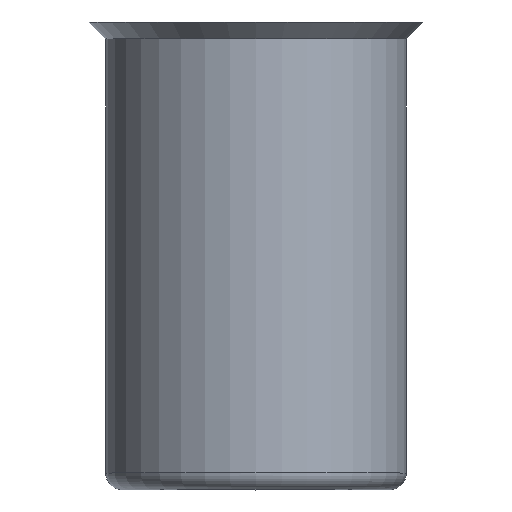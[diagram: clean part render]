
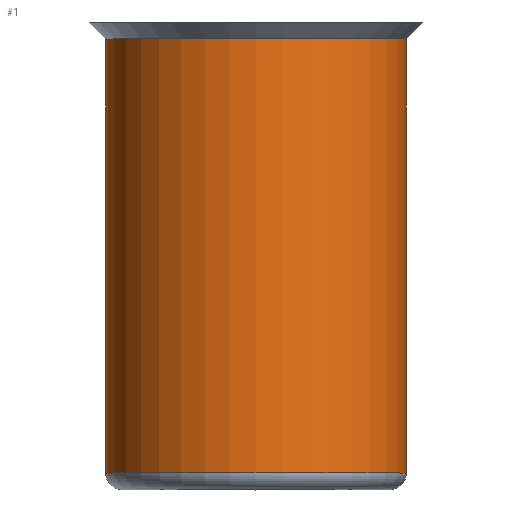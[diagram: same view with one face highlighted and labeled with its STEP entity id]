
A CAD part, top view. The second image highlights one B-rep face of the part: STEP entity #1.
In plain terms, the highlighted cylindrical face has radius 4.5 mm (diameter 9 mm), a full revolution.
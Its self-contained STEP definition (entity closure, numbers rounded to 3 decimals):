
#1 = ADVANCED_FACE ( 'NONE', ( #122, #66 ), #21, .T. ) ;
#2 = DIRECTION ( 'NONE',  ( 0., 0., -1. ) ) ;
#10 = EDGE_CURVE ( 'NONE', #192, #192, #97, .T. ) ;
#16 = ORIENTED_EDGE ( 'NONE', *, *, #10, .T. ) ;
#17 = AXIS2_PLACEMENT_3D ( 'NONE', #180, #185, #2 ) ;
#21 = CYLINDRICAL_SURFACE ( 'NONE', #118, 4.5 ) ;
#34 = CARTESIAN_POINT ( 'NONE',  ( 0., -13.5, 0. ) ) ;
#36 = EDGE_CURVE ( 'NONE', #160, #160, #139, .T. ) ;
#40 = DIRECTION ( 'NONE',  ( 0., 0., 1. ) ) ;
#66 = FACE_OUTER_BOUND ( 'NONE', #165, .T. ) ;
#77 = DIRECTION ( 'NONE',  ( 0., 0., -1. ) ) ;
#93 = DIRECTION ( 'NONE',  ( 0., 1., 0. ) ) ;
#97 = CIRCLE ( 'NONE', #17, 4.5 ) ;
#118 = AXIS2_PLACEMENT_3D ( 'NONE', #152, #120, #77 ) ;
#120 = DIRECTION ( 'NONE',  ( 0., -1., 0. ) ) ;
#122 = FACE_OUTER_BOUND ( 'NONE', #145, .T. ) ;
#139 = CIRCLE ( 'NONE', #169, 4.5 ) ;
#145 = EDGE_LOOP ( 'NONE', ( #149 ) ) ;
#149 = ORIENTED_EDGE ( 'NONE', *, *, #36, .T. ) ;
#152 = CARTESIAN_POINT ( 'NONE',  ( 0., 0., 0. ) ) ;
#160 = VERTEX_POINT ( 'NONE', #173 ) ;
#165 = EDGE_LOOP ( 'NONE', ( #16 ) ) ;
#169 = AXIS2_PLACEMENT_3D ( 'NONE', #34, #93, #40 ) ;
#173 = CARTESIAN_POINT ( 'NONE',  ( 0., -13.5, 4.5 ) ) ;
#176 = CARTESIAN_POINT ( 'NONE',  ( 0., -0.5, -4.5 ) ) ;
#180 = CARTESIAN_POINT ( 'NONE',  ( 0., -0.5, 0. ) ) ;
#185 = DIRECTION ( 'NONE',  ( 0., -1., 0. ) ) ;
#192 = VERTEX_POINT ( 'NONE', #176 ) ;
